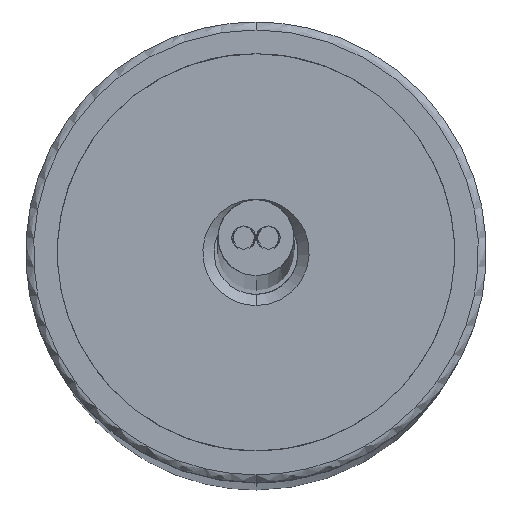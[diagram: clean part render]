
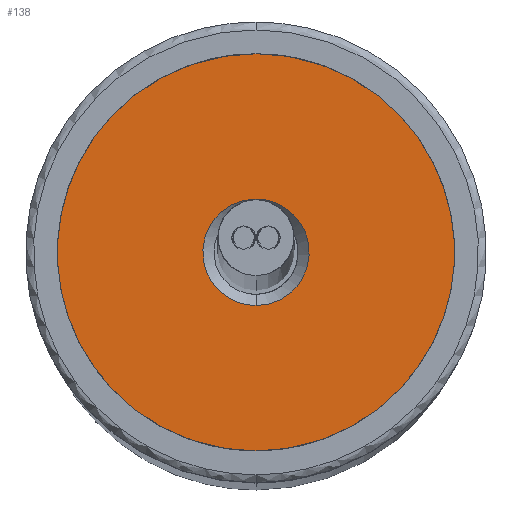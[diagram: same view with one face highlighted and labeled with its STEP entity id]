
A CAD part, top view. The second image highlights one B-rep face of the part: STEP entity #138.
In plain terms, the highlighted planar face has unit normal (0, 0, 1).
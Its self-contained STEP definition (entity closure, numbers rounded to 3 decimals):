
#17=FACE_BOUND('',#269,.T.);
#50=PLANE('',#1178);
#138=ADVANCED_FACE('',(#201,#17),#50,.T.);
#201=FACE_OUTER_BOUND('',#268,.T.);
#268=EDGE_LOOP('',(#410,#411));
#269=EDGE_LOOP('',(#412,#413));
#410=ORIENTED_EDGE('',*,*,#654,.F.);
#411=ORIENTED_EDGE('',*,*,#642,.F.);
#412=ORIENTED_EDGE('',*,*,#637,.T.);
#413=ORIENTED_EDGE('',*,*,#668,.T.);
#637=EDGE_CURVE('',#958,#957,#831,.T.);
#642=EDGE_CURVE('',#961,#962,#833,.T.);
#654=EDGE_CURVE('',#962,#961,#838,.T.);
#668=EDGE_CURVE('',#957,#958,#849,.T.);
#831=(
BOUNDED_CURVE()
B_SPLINE_CURVE(2,(#3576,#3577,#3578,#3579,#3580),.UNSPECIFIED.,.F.,.F.)
B_SPLINE_CURVE_WITH_KNOTS((3,2,3),(-10.524,-5.262,
0.),.UNSPECIFIED.)
CURVE()
GEOMETRIC_REPRESENTATION_ITEM()
RATIONAL_B_SPLINE_CURVE((1.,0.707,1.,0.707,1.))
REPRESENTATION_ITEM('')
);
#833=(
BOUNDED_CURVE()
B_SPLINE_CURVE(2,(#3592,#3593,#3594,#3595,#3596),.UNSPECIFIED.,.F.,.F.)
B_SPLINE_CURVE_WITH_KNOTS((3,2,3),(0.,19.635,39.27),
 .UNSPECIFIED.)
CURVE()
GEOMETRIC_REPRESENTATION_ITEM()
RATIONAL_B_SPLINE_CURVE((1.,0.707,1.,0.707,1.))
REPRESENTATION_ITEM('')
);
#838=(
BOUNDED_CURVE()
B_SPLINE_CURVE(2,(#3627,#3628,#3629,#3630,#3631),.UNSPECIFIED.,.F.,.F.)
B_SPLINE_CURVE_WITH_KNOTS((3,2,3),(0.,19.635,39.27),
 .UNSPECIFIED.)
CURVE()
GEOMETRIC_REPRESENTATION_ITEM()
RATIONAL_B_SPLINE_CURVE((1.,0.707,1.,0.707,1.))
REPRESENTATION_ITEM('')
);
#849=(
BOUNDED_CURVE()
B_SPLINE_CURVE(2,(#3746,#3747,#3748,#3749,#3750),.UNSPECIFIED.,.F.,.F.)
B_SPLINE_CURVE_WITH_KNOTS((3,2,3),(-10.524,-5.262,
0.),.UNSPECIFIED.)
CURVE()
GEOMETRIC_REPRESENTATION_ITEM()
RATIONAL_B_SPLINE_CURVE((1.,0.707,1.,0.707,1.))
REPRESENTATION_ITEM('')
);
#957=VERTEX_POINT('',#3504);
#958=VERTEX_POINT('',#3505);
#961=VERTEX_POINT('',#3508);
#962=VERTEX_POINT('',#3509);
#1178=AXIS2_PLACEMENT_3D('',#1893,#1220,$);
#1220=DIRECTION('',(0.,0.,1.));
#1893=CARTESIAN_POINT('',(-15.,15.,-535.));
#3504=CARTESIAN_POINT('',(0.,3.35,-535.));
#3505=CARTESIAN_POINT('',(0.,-3.35,-535.));
#3508=CARTESIAN_POINT('',(0.,12.5,-535.));
#3509=CARTESIAN_POINT('',(0.,-12.5,-535.));
#3576=CARTESIAN_POINT('',(0.,-3.35,-535.));
#3577=CARTESIAN_POINT('',(-3.35,-3.35,-535.));
#3578=CARTESIAN_POINT('',(-3.35,0.,-535.));
#3579=CARTESIAN_POINT('',(-3.35,3.35,-535.));
#3580=CARTESIAN_POINT('',(0.,3.35,-535.));
#3592=CARTESIAN_POINT('',(0.,12.5,-535.));
#3593=CARTESIAN_POINT('',(12.5,12.5,-535.));
#3594=CARTESIAN_POINT('',(12.5,0.,-535.));
#3595=CARTESIAN_POINT('',(12.5,-12.5,-535.));
#3596=CARTESIAN_POINT('',(0.,-12.5,-535.));
#3627=CARTESIAN_POINT('',(0.,-12.5,-535.));
#3628=CARTESIAN_POINT('',(-12.5,-12.5,-535.));
#3629=CARTESIAN_POINT('',(-12.5,0.,-535.));
#3630=CARTESIAN_POINT('',(-12.5,12.5,-535.));
#3631=CARTESIAN_POINT('',(0.,12.5,-535.));
#3746=CARTESIAN_POINT('',(0.,3.35,-535.));
#3747=CARTESIAN_POINT('',(3.35,3.35,-535.));
#3748=CARTESIAN_POINT('',(3.35,0.,-535.));
#3749=CARTESIAN_POINT('',(3.35,-3.35,-535.));
#3750=CARTESIAN_POINT('',(0.,-3.35,-535.));
